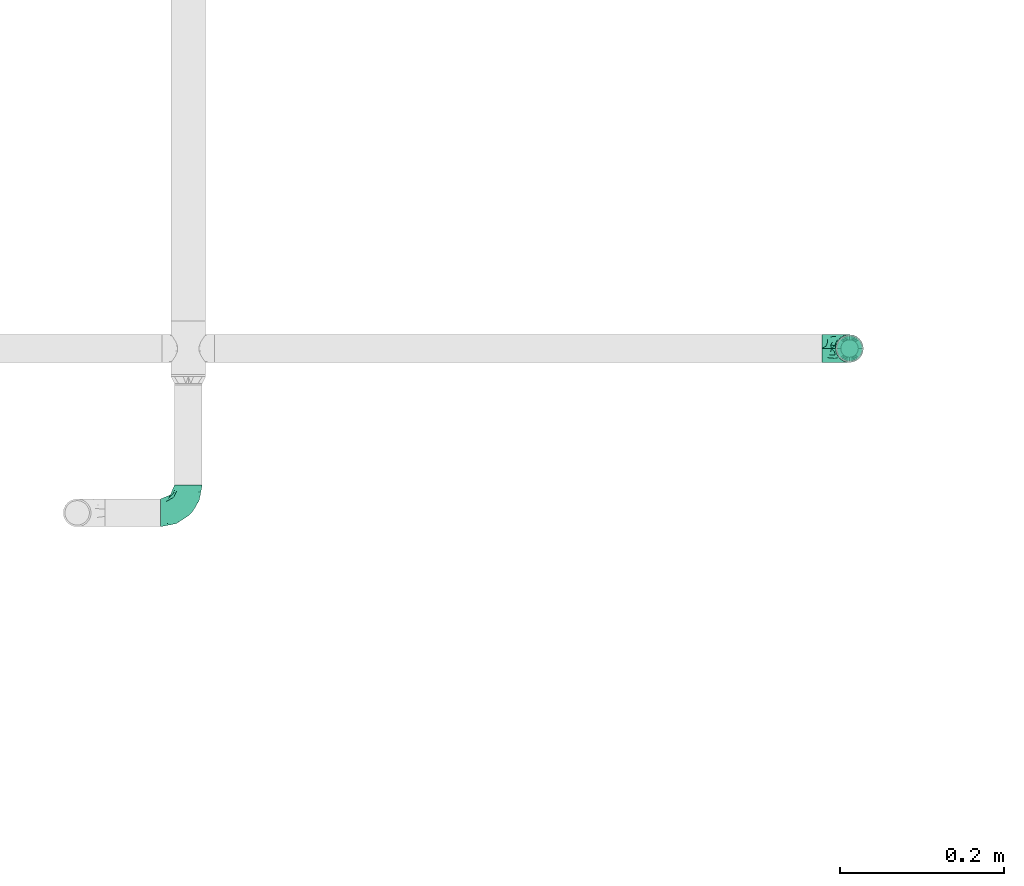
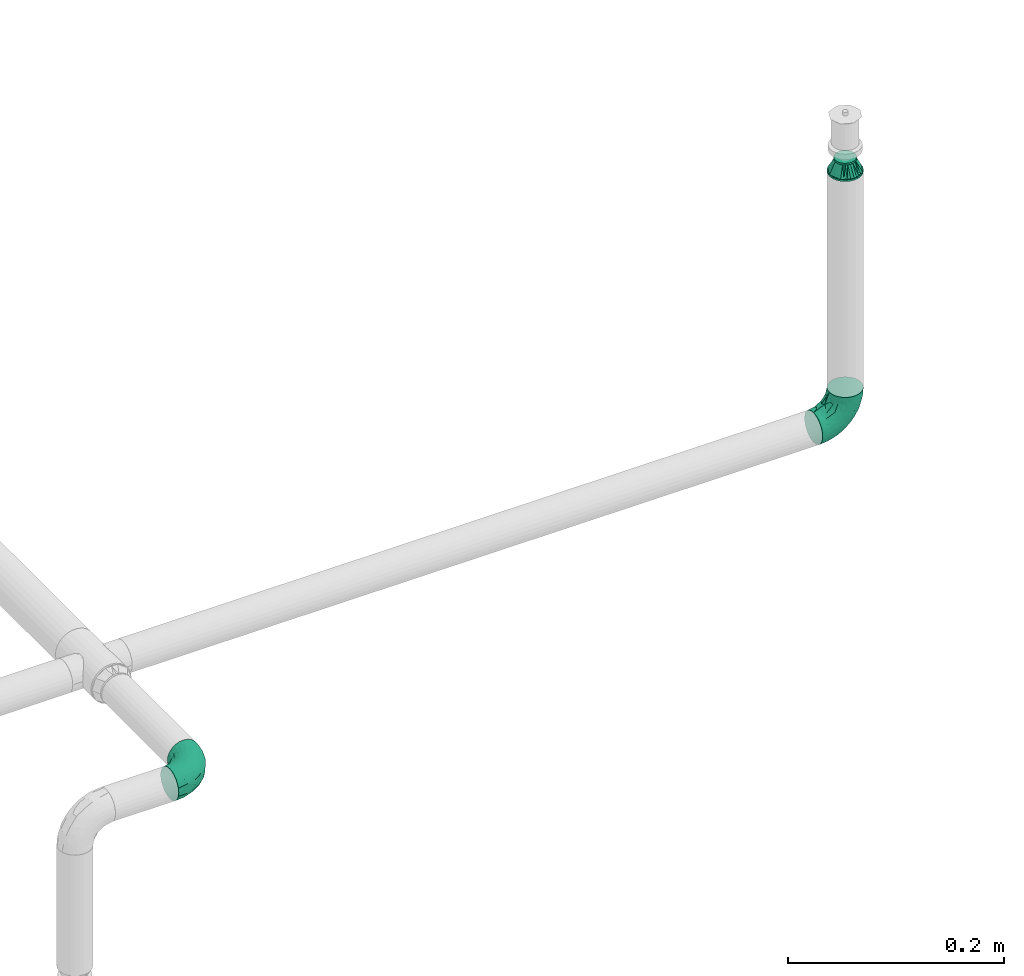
# One storey, part 59 of 157: 3 flow fittings.
"""IFC2X3 building model written with IfcOpenShell, lengths in millimetres."""

from ifc_helpers import new_model, entity, si_unit, converted_unit, derived_unit, direction, frame, origin_with_axes, place, context, subcontext, project, spatial, open_shell, surface_model, source, transform, mapped, type_object, element, save


model = new_model("IFC2X3")

# Units and contexts
model_context = context("Model", 3, precision=0.01, world=frame((0.0, 4.29681676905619e-09, 0.0)), true_north=direction((4.01073788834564e-13, 1.0)))
plan_context = context("Plan", 3, precision=0.01, world=frame((0.0, 4.29681676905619e-09, 0.0)), true_north=direction((4.01073788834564e-13, 1.0)))
body_context = subcontext(model_context, "Body", "Model", "MODEL_VIEW")
ifc_project = project(units=[converted_unit("PLANEANGLEUNIT", "DEGREE", entity("IfcPositiveLengthMeasure", 0.0174532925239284), si_unit("PLANEANGLEUNIT", "RADIAN"), dimensions=[0, 0, 0, 0, 0, 0, 0]), si_unit("AREAUNIT", "SQUARE_METRE"), si_unit("LENGTHUNIT", "METRE", prefix="MILLI"), si_unit("MASSUNIT", "GRAM", prefix="KILO"), si_unit("POWERUNIT", "WATT"), si_unit("PRESSUREUNIT", "PASCAL"), si_unit("FORCEUNIT", "NEWTON", prefix="KILO"), si_unit("ELECTRICCURRENTUNIT", "AMPERE"), si_unit("THERMODYNAMICTEMPERATUREUNIT", "DEGREE_CELSIUS"), si_unit("TIMEUNIT", "SECOND"), si_unit("VOLUMEUNIT", "CUBIC_METRE"), derived_unit("LINEARVELOCITYUNIT", [(si_unit("LENGTHUNIT", "METRE"), 1), (si_unit("TIMEUNIT", "SECOND"), -1)]), derived_unit("VOLUMETRICFLOWRATEUNIT", [(si_unit("VOLUMEUNIT", "CUBIC_METRE"), 1), (si_unit("TIMEUNIT", "SECOND"), -1)]), derived_unit("THERMALTRANSMITTANCEUNIT", [(si_unit("POWERUNIT", "WATT"), 1), (si_unit("THERMODYNAMICTEMPERATUREUNIT", "KELVIN"), -1), (si_unit("AREAUNIT", "SQUARE_METRE"), -1)])], contexts=[model_context, plan_context])

# Site, building, storey
site_placement = place(None, frame((0.0, -4.29681676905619e-09, 0.0), z_axis=(0.0, 0.0, 1.0), x_axis=(1.0, 0.0, 0.0)))
site = spatial("IfcSite", under=ifc_project, at=site_placement, CompositionType="ELEMENT")
building_placement = place(site_placement, frame((0.0, 4.29681676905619e-09, 0.0), z_axis=(0.0, 0.0, 1.0), x_axis=(1.0, 0.0, 0.0)))
building = spatial("IfcBuilding", under=site, at=building_placement, Name="mc-building", CompositionType="ELEMENT")
storey_placement = place(building_placement, frame((0.0, 0.0, 204000.0), z_axis=(0.0, 0.0, 1.0), x_axis=(1.0, 0.0, 0.0)))
storey = spatial("IfcBuildingStorey", under=building, at=storey_placement, Name="Nivå D", CompositionType="ELEMENT", Elevation=204000.0)

# Flow fittings
pipe_fitting_type_1 = type_object("IfcPipeFittingType", Name="magi_pipe_fe_elbow_short_001", PredefinedType="BEND")
shared_shape_1 = source(origin_with_axes(), body_context, "Body", "SurfaceModel", [
    surface_model("IfcShellBasedSurfaceModel", [(-33.8, 8.45, -14.63583), (-33.8, 4.37404, -16.32415), (-33.8, 11.9501, -11.9501), (-33.8, -11.9501, -11.9501), (-33.8, -14.63583, -8.45), (-33.8, -8.45, -14.63583), (-33.8, 0.0, -16.9), (-33.8, -4.37404, -16.32415), (-33.8, -4.37404, 16.32415), (-33.8, 0.0, 16.9), (-33.8, -8.45, 14.63583), (-33.8, 16.32415, -4.37404), (-33.8, 14.63583, -8.45), (-33.8, -16.32415, -4.37404), (-33.8, -16.9, 0.0), (-33.8, -16.32415, 4.37404), (-33.8, 11.9501, 11.9501), (-33.8, 14.63583, 8.45), (-33.8, 16.32415, 4.37404), (-33.8, 4.37404, 16.32415), (-33.8, 8.45, 14.63583), (-33.8, -14.63583, 8.45), (-33.8, -11.9501, 11.9501), (-33.8, 16.9, 0.0), (-11.9501, 33.8, -11.9501), (0.0, 33.8, -16.9), (-4.37404, 33.8, -16.32415), (-8.45, 33.8, -14.63583), (-14.63583, 33.8, -8.45), (-16.32415, 33.8, -4.37404), (14.63583, 33.8, -8.45), (8.45, 33.8, 14.63583), (16.32415, 33.8, -4.37404), (8.45, 33.8, -14.63583), (11.9501, 33.8, -11.9501), (4.37404, 33.8, -16.32415), (16.32415, 33.8, 4.37404), (16.9, 33.8, 0.0), (-11.9501, 33.8, 11.9501), (-16.32415, 33.8, 4.37404), (-14.63583, 33.8, 8.45), (-8.45, 33.8, 14.63583), (-4.37404, 33.8, 16.32415), (11.9501, 33.8, 11.9501), (14.63583, 33.8, 8.45), (0.0, 33.8, 16.9), (4.37404, 33.8, 16.32415), (-16.9, 33.8, 0.0), (-24.79389, -13.12945, 9.48721), (-22.19287, -9.75018, 12.59315), (-24.09897, -14.97035, 0.0), (-14.93934, -10.76256, 8.5297), (-22.46095, -14.75051, 5.27077), (14.75051, 22.46094, 5.27077), (11.9251, 13.23888, 4.33236), (13.04069, 14.39795, 0.0), (7.71387, 13.68847, 11.55891), (9.75018, 22.19287, 12.59315), (4.10169, 13.0571, 14.04018), (-24.84007, -6.39063, 15.2048), (-25.81779, -2.23879, 16.61097), (-23.66549, 2.59054, 16.87119), (-26.50418, 14.06512, 11.08152), (-24.21253, 17.66365, 7.72657), (-29.58514, 15.86957, 7.00283), (-6.17382, -7.5455, 0.0), (-13.23888, -11.9251, 4.33236), (-14.39795, -13.04069, 0.0), (-17.81434, 18.87373, 11.97104), (-6.30846, 29.15138, 15.82987), (-2.31622, 25.28002, 16.85849), (-29.23923, 10.23435, 13.77053), (-1.45439, -2.85688, 7.61475), (-0.28326, 0.34872, 10.09509), (-5.74484, -4.04709, 10.4122), (-4.41137, 11.31918, 16.59407), (-8.39727, 3.10034, 15.7812), (-1.72649, 9.1306, 15.53089), (-17.39909, 24.75344, 7.64977), (-26.19233, 20.0512, 0.0), (-28.14518, 17.29657, 4.25857), (-26.05147, 6.6281, 15.96447), (-5.87354, 16.61944, 16.86968), (-12.51807, 12.51807, 16.48937), (-10.06312, 7.38516, 16.81295), (-3.01882, 3.01882, 13.81718), (-13.0571, -4.10169, 14.04018), (-16.82553, -0.15166, 16.38038), (10.76256, 14.93934, 8.5297), (13.12945, 24.79389, 9.48721), (6.39063, 24.84007, 15.2048), (2.23879, 25.81779, 16.61097), (-13.68847, -7.71387, 11.55891), (14.97035, 24.09897, 0.0), (-7.30894, 22.89991, 16.09489), (-10.67958, 26.17414, 14.008), (-12.78295, 18.26924, 15.06066), (-13.88562, 22.45231, 12.93244), (-18.04944, 15.16501, 14.04434), (-23.11658, 20.08178, 4.02986), (-21.84989, 21.84989, 0.0), (-18.55817, 25.48277, 3.93065), (-13.95142, 26.94732, 11.03289), (-18.57098, 7.23906, 16.59756), (-16.58335, 4.14122, 16.89279), (-17.96666, 11.46709, 15.63151), (-9.84453, 17.54304, 16.18938), (0.15166, 16.82553, 16.38038), (-23.27207, 11.47201, 14.23154), (3.84842, 5.86994, 10.70473), (-8.0212, -7.54413, 7.93275), (1.00345, -2.19508, 4.57414), (5.13203, 3.01004, 5.90201), (5.24161, 1.7543, 2.53265), (8.70457, 7.04947, 3.99182), (-20.0512, 26.19233, 0.0), (8.4852, 8.76699, 7.09296), (-4.55488, -6.72064, 4.90681), (2.05031, -2.05031, 0.0), (7.5455, 6.17382, 0.0), (-26.75399, 2.1369, -16.845), (-14.61995, 24.73803, -11.27736), (-28.45274, -13.45335, -9.81895), (-26.00469, 6.63555, -15.96645), (-23.06726, 20.04573, -4.26202), (-13.80647, -4.26506, -14.17873), (-14.67501, -0.21081, -16.07388), (-6.7902, -0.2828, -13.8478), (-24.53586, 11.08096, -14.13417), (-26.72048, 14.00837, -11.05776), (10.0967, 24.44989, -12.75976), (5.83237, 21.40218, -15.03047), (6.66249, 28.54238, -15.38093), (-20.38182, 15.48705, -12.74596), (12.53268, 21.23441, -9.15363), (12.54494, 15.67504, -5.54878), (9.7522, 12.89279, -8.66343), (-15.65186, 19.64213, -13.01327), (-12.03528, 20.66498, -14.67665), (-15.61907, 15.61906, -14.83879), (-25.56551, -15.26206, 0.0), (-24.65452, -15.12934, -5.50955), (13.45335, 28.45274, -9.81895), (15.12934, 24.65452, -5.50955), (-7.35442, -8.31014, -5.65563), (-15.67504, -12.54494, -5.54878), (-24.44989, -10.0967, -12.75976), (0.16522, 0.41303, -9.71728), (-5.70658, -5.33066, -8.89288), (-5.13869, -2.37198, -11.53565), (-21.23441, -12.53268, -9.15363), (0.71146, 7.93863, -14.09382), (0.21081, 14.67501, -16.07388), (3.49291, 14.42772, -14.76381), (-24.89911, -2.13088, -16.591), (-28.54238, -6.66249, -15.38093), (-18.44386, -7.71663, -13.26957), (2.13088, 24.89911, -16.591), (-28.64342, 17.44413, -2.89318), (1.70017, -1.28722, -5.09504), (-16.57067, 26.81947, -7.36596), (-17.69055, 27.4263, -3.76405), (-12.89279, -9.7522, -8.66343), (-5.96611, 5.96611, -15.95814), (-20.53709, 20.09345, -8.28985), (-2.1369, 26.75399, -16.845), (-6.89872, 24.58781, -16.02578), (-10.60739, 26.53157, -13.98044), (-21.40218, -5.83237, -15.03047), (2.93192, 5.89627, -11.55917), (6.89393, 12.61842, -11.82233), (5.58056, 5.95325, -8.79455), (-3.99512, 18.61798, -16.89635), (8.31014, 7.35442, -5.65563), (-9.1383, 9.86148, -16.89041), (-9.99983, 16.02119, -16.39699), (-16.68576, 9.78031, -16.34199), (-27.01915, 16.61158, -7.12979), (15.26206, 25.56551, 0.0), (-18.61798, 3.99512, -16.89635), (-19.37495, 27.82495, 0.0), (-12.61842, -6.89393, -11.82233), (-18.84705, 19.14018, -10.96545)], [open_shell([[[0, 1, 2]], [[3, 4, 5]], [[6, 7, 5]], [[8, 9, 10]], [[1, 6, 2]], [[11, 12, 2]], [[4, 2, 6]], [[2, 13, 10]], [[5, 4, 6]], [[2, 4, 13]], [[14, 15, 13]], [[11, 2, 16]], [[11, 17, 18]], [[11, 16, 17]], [[19, 20, 16]], [[16, 2, 10]], [[19, 16, 10]], [[21, 22, 15]], [[22, 13, 15]], [[22, 10, 13]], [[10, 9, 19]], [[11, 18, 23]], [[24, 25, 26]], [[24, 26, 27]], [[24, 28, 29]], [[25, 24, 30]], [[31, 32, 24]], [[33, 30, 34]], [[33, 35, 25]], [[25, 30, 33]], [[32, 30, 24]], [[32, 36, 37]], [[38, 24, 29]], [[39, 40, 29]], [[40, 38, 29]], [[38, 41, 42]], [[38, 31, 24]], [[31, 38, 42]], [[36, 43, 44]], [[36, 32, 43]], [[31, 45, 46]], [[32, 31, 43]], [[42, 45, 31]], [[39, 29, 47]], [[22, 48, 49]], [[15, 14, 50]], [[51, 48, 52]], [[53, 54, 55]], [[48, 22, 21]], [[15, 52, 21]], [[56, 57, 58]], [[49, 10, 22]], [[49, 59, 10]], [[9, 60, 61]], [[62, 63, 64]], [[65, 66, 67]], [[57, 43, 31]], [[62, 68, 63]], [[42, 69, 70]], [[20, 71, 16]], [[8, 60, 9]], [[72, 73, 74]], [[75, 76, 77]], [[16, 62, 17]], [[40, 39, 78]], [[79, 23, 80]], [[64, 18, 17]], [[9, 61, 19]], [[19, 81, 20]], [[82, 83, 84]], [[74, 85, 86]], [[59, 86, 87]], [[88, 89, 57]], [[90, 31, 46]], [[44, 53, 36]], [[46, 45, 91]], [[54, 53, 88]], [[44, 89, 53]], [[92, 86, 49]], [[89, 44, 43]], [[10, 59, 8]], [[53, 55, 93]], [[93, 36, 53]], [[66, 52, 67]], [[94, 82, 70]], [[95, 96, 94]], [[97, 98, 96]], [[79, 99, 100]], [[41, 38, 95]], [[101, 100, 99]], [[68, 78, 63]], [[42, 41, 69]], [[23, 18, 80]], [[95, 94, 69]], [[78, 101, 99]], [[38, 102, 95]], [[70, 45, 42]], [[97, 95, 102]], [[15, 50, 52]], [[90, 57, 31]], [[57, 90, 58]], [[81, 19, 61]], [[103, 104, 84]], [[105, 81, 103]], [[38, 40, 102]], [[106, 96, 83]], [[94, 106, 82]], [[91, 70, 107]], [[71, 62, 16]], [[62, 108, 98]], [[86, 59, 49]], [[67, 52, 50]], [[60, 59, 87]], [[92, 49, 51]], [[86, 85, 76]], [[91, 90, 46]], [[37, 36, 93]], [[107, 77, 58]], [[107, 58, 90]], [[58, 85, 109]], [[110, 74, 92]], [[72, 74, 110]], [[66, 51, 52]], [[72, 111, 112]], [[113, 114, 112]], [[56, 88, 57]], [[52, 48, 21]], [[49, 48, 51]], [[57, 89, 43]], [[53, 89, 88]], [[103, 81, 61]], [[71, 81, 108]], [[18, 64, 80]], [[63, 78, 99]], [[47, 115, 101]], [[101, 115, 100]], [[40, 78, 102]], [[68, 102, 78]], [[97, 96, 95]], [[105, 98, 108]], [[103, 84, 83]], [[107, 70, 82]], [[76, 84, 87]], [[82, 84, 75]], [[70, 91, 45]], [[90, 91, 107]], [[59, 60, 8]], [[61, 60, 87]], [[73, 85, 74]], [[109, 112, 116]], [[103, 61, 104]], [[105, 103, 83]], [[96, 105, 83]], [[81, 105, 108]], [[96, 98, 105]], [[62, 98, 68]], [[61, 87, 104]], [[87, 84, 104]], [[86, 76, 87]], [[77, 76, 85]], [[58, 77, 85]], [[75, 77, 107]], [[82, 75, 107]], [[76, 75, 84]], [[81, 71, 20]], [[62, 71, 108]], [[95, 69, 41]], [[70, 69, 94]], [[62, 64, 17]], [[80, 63, 99]], [[63, 80, 64]], [[80, 99, 79]], [[66, 65, 117]], [[110, 66, 117]], [[112, 114, 116]], [[118, 117, 65]], [[110, 92, 51]], [[112, 111, 113]], [[119, 55, 54]], [[74, 86, 92]], [[58, 109, 56]], [[116, 56, 109]], [[66, 110, 51]], [[72, 110, 117]], [[111, 72, 117]], [[73, 112, 109]], [[117, 118, 111]], [[113, 111, 118]], [[118, 119, 113]], [[114, 119, 54]], [[119, 114, 113]], [[116, 54, 88]], [[54, 116, 114]], [[116, 88, 56]], [[112, 73, 72]], [[85, 73, 109]], [[78, 39, 101]], [[47, 101, 39]], [[102, 68, 97]], [[97, 68, 98]], [[82, 106, 83]], [[94, 96, 106]], [[1, 120, 6]], [[28, 24, 121]], [[3, 122, 4]], [[0, 123, 1]], [[100, 124, 79]], [[125, 126, 127]], [[128, 2, 129]], [[130, 131, 132]], [[128, 129, 133]], [[134, 135, 136]], [[137, 138, 139]], [[128, 0, 2]], [[67, 140, 141]], [[134, 142, 143]], [[141, 13, 4]], [[144, 65, 145]], [[146, 3, 5]], [[147, 148, 149]], [[145, 141, 150]], [[151, 152, 153]], [[154, 7, 6]], [[5, 155, 146]], [[150, 146, 156]], [[155, 5, 7]], [[143, 135, 134]], [[35, 157, 25]], [[23, 79, 158]], [[148, 159, 144]], [[160, 161, 29]], [[145, 162, 144]], [[163, 152, 151]], [[29, 28, 160]], [[121, 164, 160]], [[33, 34, 130]], [[25, 165, 26]], [[26, 165, 166]], [[142, 34, 30]], [[24, 27, 167]], [[124, 161, 164]], [[157, 35, 132]], [[155, 154, 168]], [[123, 0, 128]], [[169, 170, 171]], [[172, 157, 152]], [[26, 166, 27]], [[132, 35, 33]], [[142, 130, 34]], [[168, 154, 126]], [[136, 135, 173]], [[133, 137, 139]], [[2, 12, 129]], [[170, 131, 130]], [[30, 32, 143]], [[172, 174, 175]], [[176, 123, 128]], [[158, 177, 11]], [[135, 55, 119]], [[167, 27, 166]], [[175, 166, 172]], [[137, 167, 138]], [[122, 141, 4]], [[140, 14, 13]], [[32, 37, 178]], [[170, 130, 134]], [[152, 157, 131]], [[165, 157, 172]], [[153, 170, 151]], [[152, 163, 174]], [[168, 125, 156]], [[122, 146, 150]], [[120, 154, 6]], [[179, 174, 126]], [[179, 126, 154]], [[126, 163, 127]], [[162, 145, 150]], [[140, 13, 141]], [[32, 178, 143]], [[55, 143, 178]], [[177, 129, 12]], [[128, 133, 139]], [[176, 128, 139]], [[120, 123, 179]], [[121, 160, 28]], [[161, 100, 180]], [[166, 175, 138]], [[121, 24, 167]], [[161, 47, 29]], [[79, 124, 158]], [[124, 164, 177]], [[161, 124, 100]], [[136, 171, 170]], [[127, 163, 151]], [[147, 171, 159]], [[148, 144, 162]], [[127, 151, 169]], [[127, 181, 125]], [[129, 177, 164]], [[12, 11, 177]], [[159, 65, 144]], [[67, 141, 145]], [[143, 55, 135]], [[135, 119, 173]], [[123, 120, 1]], [[154, 120, 179]], [[157, 165, 25]], [[166, 165, 172]], [[172, 152, 174]], [[176, 139, 175]], [[126, 174, 163]], [[176, 174, 179]], [[174, 176, 175]], [[123, 176, 179]], [[150, 181, 162]], [[127, 149, 181]], [[181, 148, 162]], [[159, 148, 147]], [[171, 136, 173]], [[170, 134, 136]], [[159, 171, 173]], [[171, 147, 169]], [[169, 147, 149]], [[151, 170, 169]], [[164, 182, 129]], [[182, 121, 137]], [[181, 149, 148]], [[169, 149, 127]], [[182, 137, 133]], [[167, 137, 121]], [[166, 138, 167]], [[175, 139, 138]], [[129, 182, 133]], [[121, 182, 164]], [[161, 160, 164]], [[47, 161, 180]], [[177, 158, 124]], [[23, 158, 11]], [[130, 132, 33]], [[157, 132, 131]], [[143, 142, 30]], [[130, 142, 134]], [[154, 155, 7]], [[146, 155, 168]], [[146, 122, 3]], [[141, 122, 150]], [[152, 131, 153]], [[159, 119, 118]], [[67, 145, 65]], [[170, 153, 131]], [[119, 159, 173]], [[159, 118, 65]], [[156, 125, 181]], [[126, 125, 168]], [[150, 156, 181]], [[168, 156, 146]]])]),
])
for number, where, z_axis, x_axis, name in (
    (1, (521635.35, 410600.0, 2880.0), (0.0, 0.0, 1.0), (1.0, 0.0, 0.0), "magi_pipe_fe_elbow_short_001"),
    (2, (522440.35, 410800.0, 2880.0), (0.0, -1.0, 0.0), (1.0, 0.0, 0.0), "magi_pipe_fe_elbow_short_001"),
):
    element("IfcFlowFitting", number, at=place(storey_placement, frame(where, z_axis=z_axis, x_axis=x_axis)), inside=storey, type_object=pipe_fitting_type_1, Name=name, context=body_context, shape_type="MappedRepresentation", body=[
        mapped(shared_shape_1, transform((0.0, 0.0, 0.0), scale=1.0)),
    ])
pipe_fitting_type_2 = type_object("IfcPipeFittingType", Name="magi_pipe_fe_reducer_centric_short_NOR", PredefinedType="TRANSITION")
shared_shape_2 = source(origin_with_axes(), body_context, "Body", "SurfaceModel", [
    surface_model("IfcShellBasedSurfaceModel", [(-2.0, -7.56604, -7.56604), (-2.0, -10.33541, -2.76936), (-2.0, -5.35, -9.26647), (-2.0, 5.35, -9.26647), (-2.0, 10.33541, -2.76936), (-2.0, 7.56604, -7.56604), (12.4, 11.9501, 11.9501), (12.4, 0.0, 16.9), (12.4, 11.9501, -11.9501), (12.4, 16.9, 0.0), (0.0, -10.7, 0.0), (0.0, -5.35, 9.26647), (0.0, -5.35, -9.26647), (0.0, 10.7, 0.0), (12.4, 15.66253, -2.98753), (12.4, 8.96258, -13.18758), (0.0, 6.6875, -6.94985), (12.4, -15.66253, -2.98753), (12.4, -16.9, 0.0), (12.4, 5.97505, -14.42505), (0.0, 5.35, -9.26647), (12.4, 14.42505, -5.97505), (0.0, 8.025, -4.63324), (0.0, 9.3625, -2.31662), (0.0, -9.3625, -2.31662), (0.0, -8.025, -4.63324), (12.4, -14.42505, -5.97505), (12.4, 13.18758, -8.96258), (12.4, -13.18758, -8.96258), (12.4, -11.9501, -11.9501), (0.0, -6.6875, -6.94985), (12.4, -8.96258, -13.18758), (12.4, -5.97505, -14.42505), (12.4, -15.66253, 2.98753), (12.4, -8.96258, 13.18758), (0.0, -6.6875, 6.94985), (12.4, -11.9501, 11.9501), (12.4, 15.66253, 2.98753), (12.4, -5.97505, 14.42505), (12.4, -14.42505, 5.97505), (0.0, -8.025, 4.63324), (0.0, -9.3625, 2.31662), (0.0, 9.3625, 2.31662), (0.0, 8.025, 4.63324), (12.4, 14.42505, 5.97505), (12.4, -13.18758, 8.96258), (12.4, 13.18758, 8.96258), (0.0, 6.6875, 6.94985), (12.4, 8.96258, 13.18758), (0.0, 5.35, 9.26647), (12.4, 5.97505, 14.42505), (14.4, 4.37404, -16.32415), (14.4, 8.45, -14.63583), (14.4, 11.9501, -11.9501), (14.4, -8.45, -14.63583), (14.4, 16.32415, -4.37404), (14.4, 16.32415, 4.37404), (14.4, 14.63583, -8.45), (14.4, 0.0, -16.9), (14.4, -4.37404, -16.32415), (14.4, -11.9501, -11.9501), (14.4, -16.32415, -4.37404), (14.4, -14.63583, -8.45), (14.4, -16.32415, 4.37404), (14.4, 16.9, 0.0), (14.4, 14.63583, 8.45), (14.4, 11.9501, 11.9501), (14.4, 4.37404, 16.32415), (14.4, 8.45, 14.63583), (14.4, 0.0, 16.9), (14.4, -14.63583, 8.45), (14.4, -16.9, 0.0), (14.4, -8.45, 14.63583), (14.4, -11.9501, 11.9501), (14.4, -4.37404, 16.32415), (12.4, 4.37404, 16.32415), (12.4, -14.63583, 8.45), (12.4, 16.32415, 4.37404), (12.4, 8.45, 14.63583), (12.4, 14.63583, 8.45), (12.4, -8.45, 14.63583), (12.4, -4.37404, 16.32415), (12.4, -16.32415, 4.37404), (12.4, -16.32415, -4.37404), (12.4, -8.45, -14.63583), (12.4, 16.32415, -4.37404), (12.4, 14.63583, -8.45), (12.4, 8.45, -14.63583), (12.4, 4.37404, -16.32415), (12.4, 0.0, -16.9), (12.4, -14.63583, -8.45), (12.4, -4.37404, -16.32415), (-2.0, 2.76936, 10.33541), (-2.0, 0.0, 10.7), (-2.0, 5.35, 9.26647), (-2.0, 7.56604, 7.56604), (-2.0, 9.26647, 5.35), (-2.0, 10.33541, 2.76936), (-2.0, -10.33541, 2.76936), (-2.0, -2.76936, 10.33541), (-2.0, -7.56604, 7.56604), (-2.0, -5.35, 9.26647), (-2.0, -9.26647, 5.35), (-2.0, -10.7, 0.0), (-2.0, 9.26647, -5.35), (-2.0, 2.76936, -10.33541), (-2.0, -9.26647, -5.35), (-2.0, 0.0, -10.7), (-2.0, -2.76936, -10.33541), (-2.0, 10.7, 0.0), (0.0, 0.0, -10.7), (0.0, 2.76936, -10.33541), (0.0, 10.33541, -2.76936), (0.0, 7.56604, -7.56604), (0.0, -10.33541, -2.76936), (0.0, 9.26647, -5.35), (0.0, 0.0, 10.7), (0.0, -2.76936, -10.33541), (0.0, -7.56604, -7.56604), (0.0, -9.26647, -5.35), (0.0, 10.33541, 2.76936), (0.0, 9.26647, 5.35), (0.0, 7.56604, 7.56604), (0.0, 2.76936, 10.33541), (0.0, -7.56604, 7.56604), (0.0, -10.33541, 2.76936), (0.0, -9.26647, 5.35), (0.0, -2.76936, 10.33541), (0.0, 2.675, -9.26647), (0.0, -2.675, -9.26647), (12.4, 2.98753, -15.66253), (0.0, 0.0, -9.26647), (12.4, -2.98753, -15.66253), (0.0, -2.675, 9.26647), (0.0, 2.675, 9.26647), (12.4, -2.98753, 15.66253), (0.0, 0.0, 9.26647), (12.4, 2.98753, 15.66253)], [open_shell([[[0, 1, 2]], [[3, 4, 5]], [[6, 7, 8]], [[8, 9, 6]], [[10, 11, 12]], [[13, 9, 14]], [[15, 16, 8]], [[17, 18, 10]], [[15, 19, 20]], [[21, 22, 23]], [[24, 25, 26]], [[22, 21, 27]], [[28, 26, 25]], [[29, 30, 31]], [[12, 32, 31]], [[10, 18, 33]], [[34, 35, 36]], [[37, 9, 13]], [[34, 38, 11]], [[39, 40, 41]], [[42, 43, 44]], [[40, 39, 45]], [[46, 44, 43]], [[6, 47, 48]], [[49, 50, 48]], [[51, 52, 53]], [[54, 51, 53]], [[53, 55, 56]], [[55, 53, 57]], [[53, 56, 54]], [[58, 54, 59]], [[58, 51, 54]], [[60, 61, 62]], [[61, 60, 54]], [[54, 63, 61]], [[56, 55, 64]], [[56, 65, 66]], [[56, 66, 67]], [[67, 63, 54]], [[67, 66, 68]], [[63, 67, 69]], [[69, 70, 63]], [[71, 61, 63]], [[70, 72, 73]], [[70, 69, 72]], [[72, 69, 74]], [[54, 56, 67]], [[75, 76, 7]], [[77, 75, 78]], [[6, 79, 77]], [[6, 77, 78]], [[76, 75, 77]], [[80, 76, 36]], [[80, 81, 7]], [[7, 76, 80]], [[82, 76, 77]], [[82, 83, 18]], [[82, 77, 84]], [[77, 85, 8]], [[8, 85, 86]], [[8, 87, 88]], [[84, 77, 8]], [[88, 89, 8]], [[83, 29, 90]], [[29, 83, 84]], [[84, 89, 91]], [[83, 82, 84]], [[8, 89, 84]], [[85, 77, 9]], [[83, 61, 18]], [[90, 62, 83]], [[54, 29, 84]], [[90, 29, 60]], [[59, 84, 91]], [[83, 62, 61]], [[61, 71, 18]], [[59, 54, 84]], [[60, 29, 54]], [[60, 62, 90]], [[58, 59, 91]], [[91, 89, 58]], [[88, 51, 89]], [[87, 52, 88]], [[57, 8, 86]], [[87, 8, 53]], [[55, 86, 85]], [[87, 53, 52]], [[52, 51, 88]], [[64, 55, 85]], [[57, 86, 55]], [[57, 53, 8]], [[9, 64, 85]], [[89, 51, 58]], [[77, 56, 9]], [[79, 65, 77]], [[68, 6, 78]], [[79, 6, 66]], [[67, 78, 75]], [[77, 65, 56]], [[56, 64, 9]], [[67, 68, 78]], [[66, 6, 68]], [[66, 65, 79]], [[69, 67, 75]], [[75, 7, 69]], [[81, 74, 7]], [[80, 72, 81]], [[70, 36, 76]], [[80, 36, 73]], [[63, 76, 82]], [[80, 73, 72]], [[72, 74, 81]], [[71, 63, 82]], [[70, 76, 63]], [[70, 73, 36]], [[18, 71, 82]], [[7, 74, 69]], [[92, 1, 93]], [[94, 1, 92]], [[95, 96, 97]], [[95, 97, 94]], [[98, 93, 1]], [[99, 100, 101]], [[99, 93, 100]], [[100, 98, 102]], [[93, 98, 100]], [[98, 1, 103]], [[94, 97, 1]], [[1, 97, 4]], [[5, 4, 104]], [[4, 3, 1]], [[105, 1, 3]], [[1, 0, 106]], [[2, 107, 108]], [[2, 1, 105]], [[105, 107, 2]], [[4, 97, 109]], [[20, 110, 111]], [[112, 20, 113]], [[114, 20, 112]], [[112, 113, 115]], [[116, 114, 112]], [[110, 12, 117]], [[110, 20, 12]], [[118, 114, 119]], [[114, 118, 12]], [[20, 114, 12]], [[112, 13, 120]], [[120, 121, 122]], [[120, 122, 123]], [[116, 112, 123]], [[123, 122, 49]], [[116, 124, 114]], [[125, 124, 126]], [[10, 114, 125]], [[124, 127, 11]], [[125, 114, 124]], [[127, 124, 116]], [[123, 112, 120]], [[1, 114, 103]], [[106, 119, 1]], [[12, 0, 2]], [[106, 0, 118]], [[117, 2, 108]], [[1, 119, 114]], [[114, 10, 103]], [[117, 12, 2]], [[118, 0, 12]], [[118, 119, 106]], [[110, 117, 108]], [[108, 107, 110]], [[105, 111, 107]], [[3, 20, 105]], [[115, 5, 104]], [[3, 5, 113]], [[112, 104, 4]], [[3, 113, 20]], [[20, 111, 105]], [[13, 112, 4]], [[115, 104, 112]], [[115, 113, 5]], [[109, 13, 4]], [[107, 111, 110]], [[97, 120, 109]], [[96, 121, 97]], [[49, 95, 94]], [[96, 95, 122]], [[123, 94, 92]], [[97, 121, 120]], [[120, 13, 109]], [[123, 49, 94]], [[122, 95, 49]], [[122, 121, 96]], [[116, 123, 92]], [[92, 93, 116]], [[99, 127, 93]], [[101, 11, 99]], [[126, 100, 102]], [[101, 100, 124]], [[125, 102, 98]], [[101, 124, 11]], [[11, 127, 99]], [[10, 125, 98]], [[126, 102, 125]], [[126, 124, 100]], [[103, 10, 98]], [[93, 127, 116]], [[18, 7, 36]], [[18, 29, 8]], [[89, 8, 29]], [[18, 8, 7]], [[13, 11, 49]], [[13, 20, 12]], [[13, 12, 11]], [[24, 26, 17]], [[10, 24, 17]], [[16, 15, 20]], [[30, 12, 31]], [[23, 14, 21]], [[19, 128, 20]], [[27, 8, 16]], [[32, 12, 129]], [[30, 28, 25]], [[130, 131, 128]], [[129, 132, 32]], [[16, 22, 27]], [[13, 14, 23]], [[128, 19, 130]], [[130, 89, 131]], [[131, 132, 129]], [[89, 132, 131]], [[28, 30, 29]], [[42, 44, 37]], [[13, 42, 37]], [[35, 34, 11]], [[47, 49, 48]], [[41, 33, 39]], [[38, 133, 11]], [[45, 36, 35]], [[50, 49, 134]], [[47, 46, 43]], [[135, 136, 133]], [[134, 137, 50]], [[35, 40, 45]], [[10, 33, 41]], [[133, 38, 135]], [[135, 7, 136]], [[136, 137, 134]], [[7, 137, 136]], [[46, 47, 6]]])]),
])
flow_fitting_placement = place(storey_placement, frame((522440.35, 410800.0, 3172.54800000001), z_axis=(0.0, -1.0, 0.0), x_axis=(0.0, 0.0, -1.0)))
element("IfcFlowFitting", 3, at=flow_fitting_placement, inside=storey, type_object=pipe_fitting_type_2, Name="magi_pipe_fe_reducer_centric_short_NOR", context=body_context, shape_type="MappedRepresentation", body=[
    mapped(shared_shape_2, transform((0.0, 0.0, 0.0), scale=1.0)),
])

save(model, "model.ifc")
